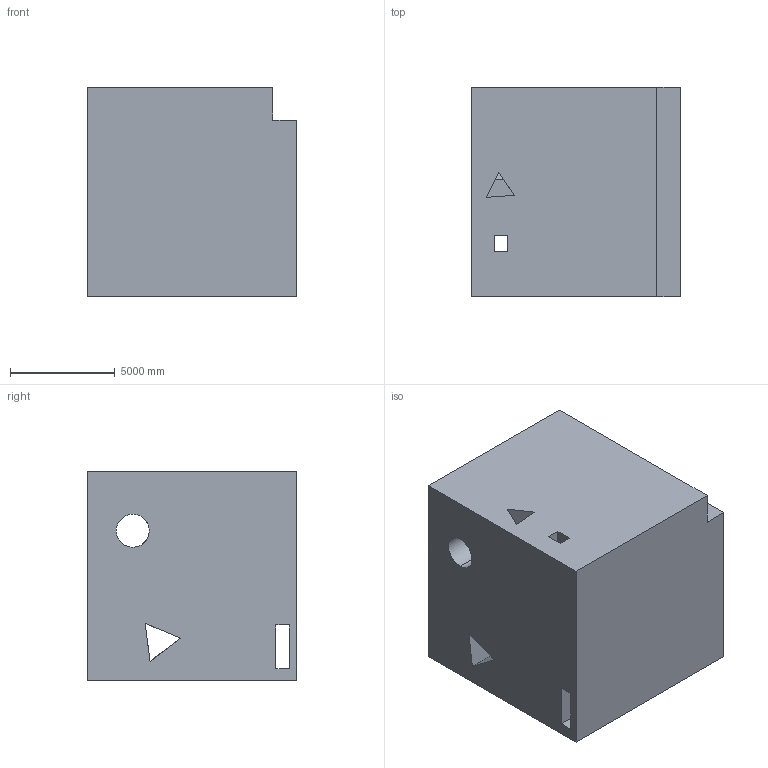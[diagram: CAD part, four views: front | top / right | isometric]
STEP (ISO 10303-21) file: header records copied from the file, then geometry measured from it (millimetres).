
FILE_DESCRIPTION (( 'STEP AP203' ), '1' );
FILE_NAME ('178.STEP', '2022-09-06T15:22:50', ( 'user' ), ( '' ), 'SwSTEP 2.0', 'SolidWorks 2021', '' );
FILE_SCHEMA (( 'CONFIG_CONTROL_DESIGN' ));
Length unit declared in the file: centimetre
Products named in the file (1): 178
Bounding box: 10000 x 10000 x 10000 mm (x, y, z)
Volume: 915864467480.8 mm3; surface area: 834066983.7 mm2
Topology: 1 solids, 1 shells, 40 faces, 126 edges, 84 vertices
Faces by surface type: plane 38, cylinder 2
Entity records: 1483 total; most frequent: CARTESIAN_POINT 272, ORIENTED_EDGE 252, DIRECTION 205, EDGE_CURVE 126, LINE 115, VECTOR 115, VERTEX_POINT 84, EDGE_LOOP 52
